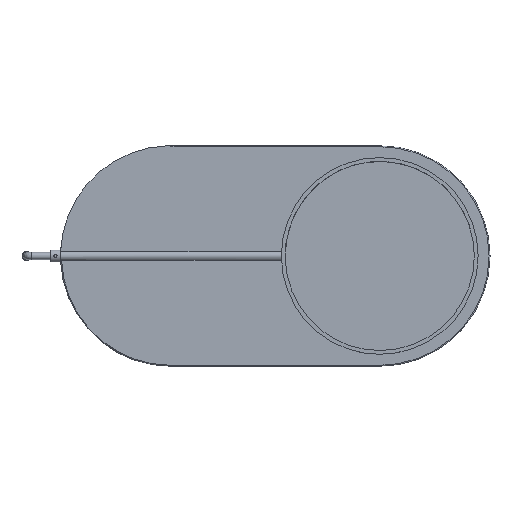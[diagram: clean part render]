
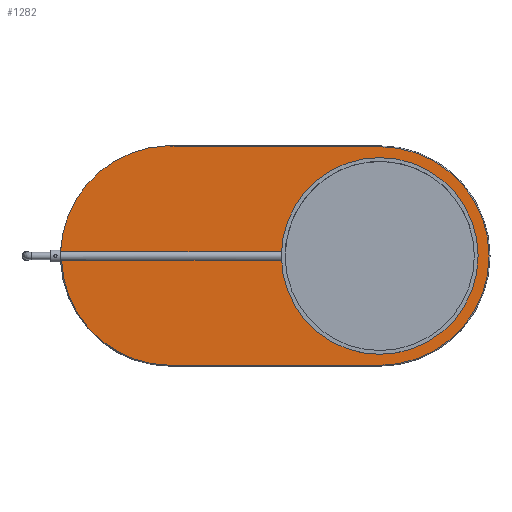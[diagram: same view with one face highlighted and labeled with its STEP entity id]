
A CAD part, top view. The second image highlights one B-rep face of the part: STEP entity #1282.
In plain terms, the highlighted planar face has unit normal (0, 0, 1).
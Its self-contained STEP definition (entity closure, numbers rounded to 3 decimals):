
#403=CARTESIAN_POINT('',(0.0,-230.,5.0));
#404=VERTEX_POINT('',#403);
#412=CARTESIAN_POINT('',(-439.999,-230.,5.0));
#413=VERTEX_POINT('',#412);
#414=CARTESIAN_POINT('',(0.0,-230.,5.0));
#415=DIRECTION('',(-1.0,0.0,0.0));
#416=VECTOR('',#415,439.999);
#417=LINE('',#414,#416);
#418=EDGE_CURVE('',#404,#413,#417,.T.);
#444=CARTESIAN_POINT('',(0.,230.,5.0));
#445=VERTEX_POINT('',#444);
#453=CARTESIAN_POINT('',(0.0,0.0,5.0));
#454=DIRECTION('',(0.0,0.0,-1.0));
#455=DIRECTION('',(1.0,0.0,0.0));
#456=AXIS2_PLACEMENT_3D('',#453,#454,#455);
#457=CIRCLE('',#456,230.);
#458=EDGE_CURVE('',#445,#404,#457,.T.);
#470=CARTESIAN_POINT('',(-669.701,-9.233,5.0));
#471=VERTEX_POINT('',#470);
#472=CARTESIAN_POINT('',(-439.882,0.004,5.0));
#473=DIRECTION('',(0.0,0.0,-1.0));
#474=DIRECTION('',(-0.693,-0.721,0.0));
#475=AXIS2_PLACEMENT_3D('',#472,#473,#474);
#476=CIRCLE('',#475,230.004);
#477=EDGE_CURVE('',#413,#471,#476,.T.);
#504=CARTESIAN_POINT('',(-409.43,230.,5.0));
#505=VERTEX_POINT('',#504);
#539=CARTESIAN_POINT('',(-409.43,230.,5.0));
#540=DIRECTION('',(1.0,0.0,0.0));
#541=VECTOR('',#540,409.43);
#542=LINE('',#539,#541);
#543=EDGE_CURVE('',#505,#445,#542,.T.);
#1204=CARTESIAN_POINT('',(-200.788,-9.233,5.0));
#1205=VERTEX_POINT('',#1204);
#1206=CARTESIAN_POINT('',(-200.788,-9.233,5.0));
#1207=DIRECTION('',(-1.0,0.0,0.0));
#1208=VECTOR('',#1207,468.913);
#1209=LINE('',#1206,#1208);
#1210=EDGE_CURVE('',#1205,#471,#1209,.T.);
#1212=CARTESIAN_POINT('',(-200.788,9.233,5.0));
#1213=VERTEX_POINT('',#1212);
#1231=CARTESIAN_POINT('',(-671.702,9.233,5.0));
#1232=VERTEX_POINT('',#1231);
#1233=CARTESIAN_POINT('',(-671.702,9.233,5.0));
#1234=DIRECTION('',(1.0,0.0,0.0));
#1235=VECTOR('',#1234,470.915);
#1236=LINE('',#1233,#1235);
#1237=EDGE_CURVE('',#1232,#1213,#1236,.T.);
#1255=CARTESIAN_POINT('',(-219.918,-0.018,5.0));
#1256=DIRECTION('',(0.0,0.0,1.0));
#1257=DIRECTION('',(1.0,0.0,0.0));
#1258=AXIS2_PLACEMENT_3D('',#1255,#1256,#1257);
#1259=PLANE('',#1258);
#1260=CARTESIAN_POINT('',(-439.882,0.004,5.0));
#1261=DIRECTION('',(0.0,0.0,-1.0));
#1262=DIRECTION('',(-0.008,-1.,0.0));
#1263=AXIS2_PLACEMENT_3D('',#1260,#1261,#1262);
#1264=CIRCLE('',#1263,232.004);
#1265=EDGE_CURVE('',#1232,#505,#1264,.T.);
#1266=ORIENTED_EDGE('',*,*,#1265,.F.);
#1267=ORIENTED_EDGE('',*,*,#1237,.T.);
#1268=CARTESIAN_POINT('',(0.0,0.0,5.0));
#1269=DIRECTION('',(0.0,0.0,1.0));
#1270=DIRECTION('',(-1.0,0.0,0.0));
#1271=AXIS2_PLACEMENT_3D('',#1268,#1269,#1270);
#1272=CIRCLE('',#1271,201.0);
#1273=EDGE_CURVE('',#1205,#1213,#1272,.T.);
#1274=ORIENTED_EDGE('',*,*,#1273,.F.);
#1275=ORIENTED_EDGE('',*,*,#1210,.T.);
#1276=ORIENTED_EDGE('',*,*,#477,.F.);
#1277=ORIENTED_EDGE('',*,*,#418,.F.);
#1278=ORIENTED_EDGE('',*,*,#458,.F.);
#1279=ORIENTED_EDGE('',*,*,#543,.F.);
#1280=EDGE_LOOP('',(#1266,#1267,#1274,#1275,#1276,#1277,#1278,#1279));
#1281=FACE_OUTER_BOUND('',#1280,.T.);
#1282=ADVANCED_FACE('',(#1281),#1259,.T.);
